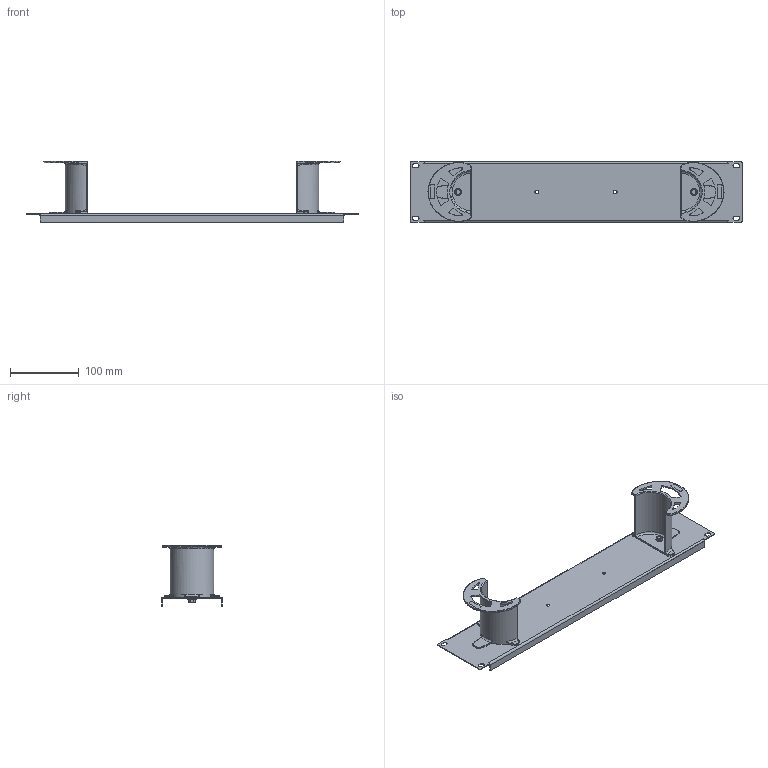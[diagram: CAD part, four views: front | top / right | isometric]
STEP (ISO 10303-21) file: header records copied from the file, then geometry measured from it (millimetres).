
FILE_DESCRIPTION((''),'2;1');
FILE_NAME('APCS3_ASM','2015-06-05T',('rrenderos'),('Middle Atlantic Products'),'PRO/ENGINEER BY PARAMETRIC TECHNOLOGY CORPORATION, 2014310','PRO/ENGINEER BY PARAMETRIC TECHNOLOGY CORPORATION, 2014310','');
FILE_SCHEMA(('CONFIG_CONTROL_DESIGN'));
Length unit declared in the file: inch
Products named in the file (5): PPCSPNL; 500-00629; KOPTS; 500-00511; APCS3_ASM
Assembly tree (7 placements, depth 2):
  APCS3_ASM
    PPCSPNL
    500-00629  x2
    KOPTS  x2
    500-00511  x2
Bounding box: 482.6 x 88.09 x 89.38 mm (x, y, z)
Volume: 112382.8 mm3; surface area: 155383.4 mm2
Topology: 7 solids, 7 shells, 420 faces, 1020 edges, 620 vertices
Faces by surface type: cylinder 146, plane 102, bspline 94, torus 58, cone 16, extrusion 4
Entity records: 10018 total; most frequent: CARTESIAN_POINT 4289, ORIENTED_EDGE 1214, DIRECTION 1113, EDGE_CURVE 607, AXIS2_PLACEMENT_3D 435, VERTEX_POINT 372, EDGE_LOOP 275, FACE_OUTER_BOUND 246
